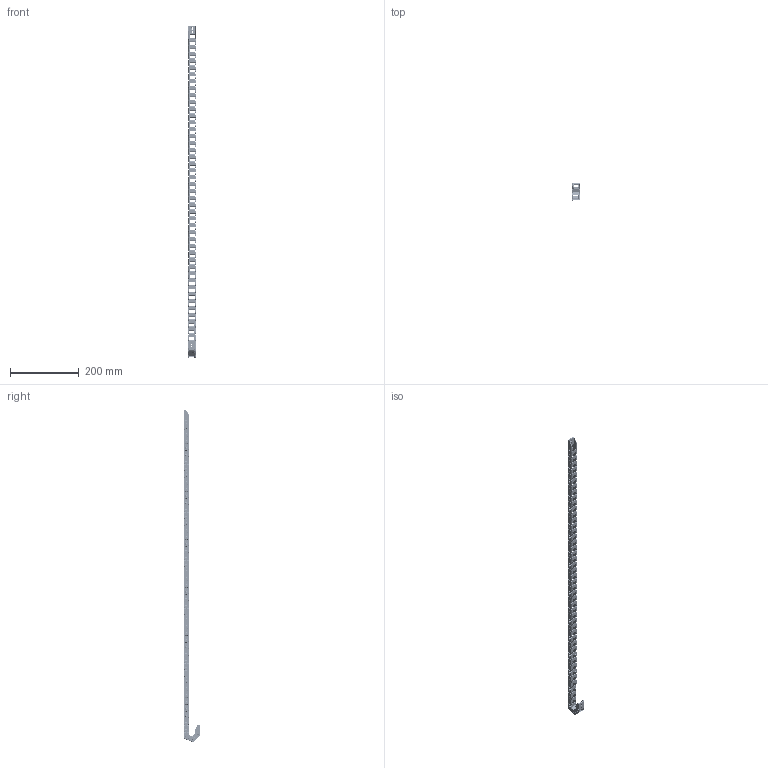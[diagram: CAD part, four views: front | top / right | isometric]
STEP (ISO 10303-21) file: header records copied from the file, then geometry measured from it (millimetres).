
FILE_DESCRIPTION(/* description */ (''),/* implementation_level */ '2;1');
FILE_NAME(/* name */ 'QSBK10X15R18.stp',/* time_stamp */ '2022-11-14T16:12:17+08:00',/* author */ (''),/* organization */ (''),/* preprocessor_version */ 'ST-DEVELOPER v16',/* originating_system */ 'SIEMENS PLM Software NX 10.0',/* authorisation */ '');
FILE_SCHEMA (('CONFIG_CONTROL_DESIGN'));
Products named in the file (1): QSBK10X15.R18_stp
Bounding box: 24.3 x 48.21 x 968.54 mm (x, y, z)
Volume: 121805.8 mm3; surface area: 157376 mm2
Topology: 50 solids, 50 shells, 7063 faces, 18397 edges, 11566 vertices
Faces by surface type: plane 2808, cylinder 2751, torus 788, bspline 684, sphere 24, cone 8
Full cylindrical faces by diameter (mm): 3 x50, 5.5 x48, 6.137 x98
Entity records: 249986 total; most frequent: CARTESIAN_POINT 78852, DIRECTION 36059, ORIENTED_EDGE 35978, EDGE_CURVE 17989, AXIS2_PLACEMENT_3D 13304, VERTEX_POINT 11370, LINE 9451, VECTOR 9451
